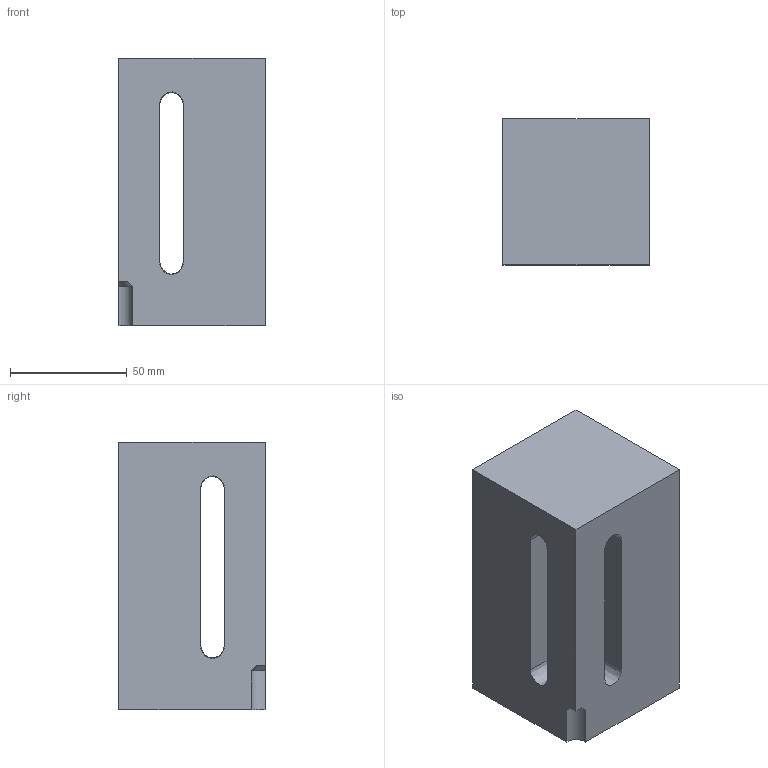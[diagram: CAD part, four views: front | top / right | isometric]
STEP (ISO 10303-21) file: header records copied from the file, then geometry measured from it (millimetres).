
FILE_DESCRIPTION(/* description */ (''),/* implementation_level */ '2;1');
FILE_NAME(/* name */ 'H120d - Rebuilt',/* time_stamp */ '2021-05-18T22:29:31-06:00',/* author */ (''),/* organization */ (''),/* preprocessor_version */ 'ST-DEVELOPER v15',/* originating_system */ '',/* authorisation */ '');
FILE_SCHEMA (('CONFIG_CONTROL_DESIGN'));
Length unit declared in the file: millimetre
Products named in the file (1): Document
Bounding box: 62.5 x 62.5 x 114.35 mm (x, y, z)
Volume: 358749.8 mm3; surface area: 51114.1 mm2
Topology: 1 solids, 1 shells, 25 faces, 65 edges, 40 vertices
Faces by surface type: bspline 25
Entity records: 1858 total; most frequent: CARTESIAN_POINT 946, B_SPLINE_CURVE_WITH_KNOTS 160, ORIENTED_EDGE 130, PCURVE 130, DEFINITIONAL_REPRESENTATION 130, SURFACE_CURVE 65, EDGE_CURVE 65, VERTEX_POINT 40
